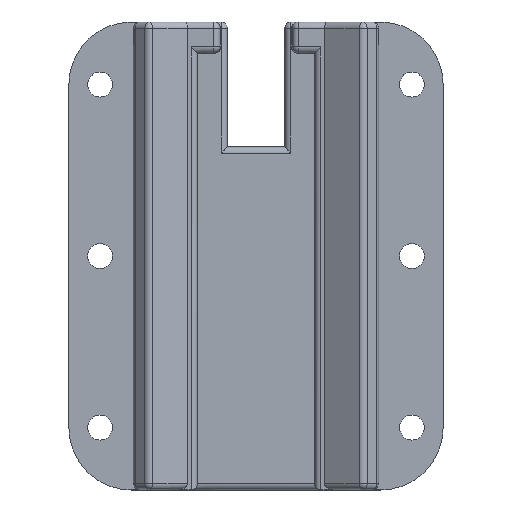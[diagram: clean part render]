
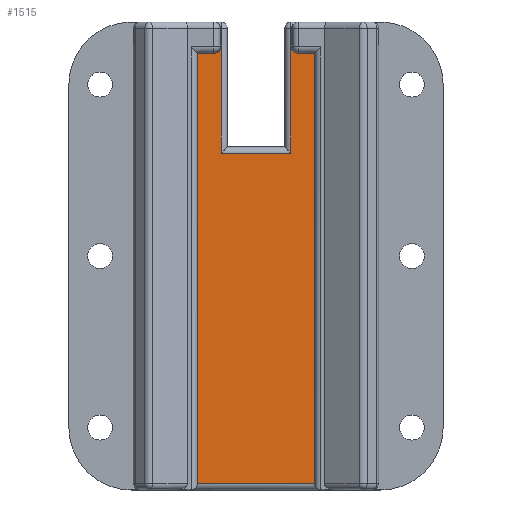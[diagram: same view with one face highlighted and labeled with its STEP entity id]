
A CAD part, top view. The second image highlights one B-rep face of the part: STEP entity #1515.
In plain terms, the highlighted planar face has unit normal (0, 0, 1).
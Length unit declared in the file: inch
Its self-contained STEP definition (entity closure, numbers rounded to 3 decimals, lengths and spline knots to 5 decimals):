
#122=PLANE('',#1645);
#165=FACE_OUTER_BOUND('',#263,.T.);
#263=EDGE_LOOP('',(#1091,#1092,#1093,#1094,#1095,#1096,#1097,#1098,#1099,
#1100,#1101,#1102,#1103,#1104));
#363=ELLIPSE('',#1630,0.05,0.05);
#364=ELLIPSE('',#1640,0.05,0.05);
#401=LINE('',#2374,#533);
#410=LINE('',#2403,#542);
#416=LINE('',#2424,#548);
#420=LINE('',#2440,#552);
#421=LINE('',#2442,#553);
#422=LINE('',#2445,#554);
#423=LINE('',#2447,#555);
#424=LINE('',#2449,#556);
#425=LINE('',#2451,#557);
#426=LINE('',#2453,#558);
#427=LINE('',#2455,#559);
#428=LINE('',#2456,#560);
#533=VECTOR('',#1843,0.3937);
#542=VECTOR('',#1872,0.3937);
#548=VECTOR('',#1898,39.37008);
#552=VECTOR('',#1918,39.37008);
#553=VECTOR('',#1921,39.37008);
#554=VECTOR('',#1924,39.37008);
#555=VECTOR('',#1925,39.37008);
#556=VECTOR('',#1926,39.37008);
#557=VECTOR('',#1927,39.37008);
#558=VECTOR('',#1928,39.37008);
#559=VECTOR('',#1929,39.37008);
#560=VECTOR('',#1930,39.37008);
#643=VERTEX_POINT('',#2322);
#665=VERTEX_POINT('',#2372);
#667=VERTEX_POINT('',#2380);
#675=VERTEX_POINT('',#2402);
#679=VERTEX_POINT('',#2413);
#680=VERTEX_POINT('',#2415);
#683=VERTEX_POINT('',#2432);
#684=VERTEX_POINT('',#2434);
#685=VERTEX_POINT('',#2444);
#686=VERTEX_POINT('',#2446);
#687=VERTEX_POINT('',#2448);
#688=VERTEX_POINT('',#2450);
#689=VERTEX_POINT('',#2452);
#690=VERTEX_POINT('',#2454);
#799=EDGE_CURVE('',#643,#665,#401,.T.);
#813=EDGE_CURVE('',#675,#667,#410,.T.);
#819=EDGE_CURVE('',#679,#680,#363,.F.);
#824=EDGE_CURVE('',#675,#679,#416,.T.);
#829=EDGE_CURVE('',#683,#684,#364,.F.);
#832=EDGE_CURVE('',#684,#665,#420,.T.);
#833=EDGE_CURVE('',#667,#643,#421,.T.);
#834=EDGE_CURVE('',#683,#685,#422,.T.);
#835=EDGE_CURVE('',#685,#686,#423,.T.);
#836=EDGE_CURVE('',#686,#687,#424,.T.);
#837=EDGE_CURVE('',#687,#688,#425,.T.);
#838=EDGE_CURVE('',#688,#689,#426,.T.);
#839=EDGE_CURVE('',#689,#690,#427,.T.);
#840=EDGE_CURVE('',#680,#690,#428,.T.);
#1091=ORIENTED_EDGE('',*,*,#799,.T.);
#1092=ORIENTED_EDGE('',*,*,#832,.F.);
#1093=ORIENTED_EDGE('',*,*,#829,.F.);
#1094=ORIENTED_EDGE('',*,*,#834,.T.);
#1095=ORIENTED_EDGE('',*,*,#835,.T.);
#1096=ORIENTED_EDGE('',*,*,#836,.T.);
#1097=ORIENTED_EDGE('',*,*,#837,.T.);
#1098=ORIENTED_EDGE('',*,*,#838,.T.);
#1099=ORIENTED_EDGE('',*,*,#839,.T.);
#1100=ORIENTED_EDGE('',*,*,#840,.F.);
#1101=ORIENTED_EDGE('',*,*,#819,.F.);
#1102=ORIENTED_EDGE('',*,*,#824,.F.);
#1103=ORIENTED_EDGE('',*,*,#813,.T.);
#1104=ORIENTED_EDGE('',*,*,#833,.T.);
#1515=ADVANCED_FACE('',(#165),#122,.F.);
#1630=AXIS2_PLACEMENT_3D('',#2416,#1884,#1885);
#1640=AXIS2_PLACEMENT_3D('',#2435,#1909,#1910);
#1645=AXIS2_PLACEMENT_3D('',#2443,#1922,#1923);
#1843=DIRECTION('',(0.,1.,0.));
#1872=DIRECTION('',(0.,-1.,0.));
#1884=DIRECTION('center_axis',(0.,0.,-1.));
#1885=DIRECTION('ref_axis',(1.,0.,0.));
#1898=DIRECTION('',(1.,0.,0.));
#1909=DIRECTION('center_axis',(0.,0.,-1.));
#1910=DIRECTION('ref_axis',(-1.,0.,0.));
#1918=DIRECTION('',(1.,0.,0.));
#1921=DIRECTION('',(1.,0.,0.));
#1922=DIRECTION('center_axis',(0.,0.,-1.));
#1923=DIRECTION('ref_axis',(0.,1.,0.));
#1924=DIRECTION('',(0.,1.,0.));
#1925=DIRECTION('',(-1.,0.,0.));
#1926=DIRECTION('',(0.,-1.,0.));
#1927=DIRECTION('',(-1.,0.,0.));
#1928=DIRECTION('',(0.,1.,0.));
#1929=DIRECTION('',(-1.,0.,0.));
#1930=DIRECTION('',(0.,1.,0.));
#2322=CARTESIAN_POINT('',(0.47,-4.1,0.4));
#2372=CARTESIAN_POINT('',(0.47,-0.65,0.4));
#2374=CARTESIAN_POINT('',(0.47,-4.49356,0.4));
#2380=CARTESIAN_POINT('',(-0.47,-4.1,0.4));
#2402=CARTESIAN_POINT('',(-0.47,-0.65,0.4));
#2403=CARTESIAN_POINT('',(-0.47,-4.49356,0.4));
#2413=CARTESIAN_POINT('',(-0.335,-0.65,0.4));
#2415=CARTESIAN_POINT('',(-0.285,-0.6,0.4));
#2416=CARTESIAN_POINT('Origin',(-0.335,-0.6,0.4));
#2424=CARTESIAN_POINT('',(-0.49,-0.65,0.4));
#2432=CARTESIAN_POINT('',(0.285,-0.6,0.4));
#2434=CARTESIAN_POINT('',(0.335,-0.65,0.4));
#2435=CARTESIAN_POINT('Origin',(0.335,-0.6,0.4));
#2440=CARTESIAN_POINT('',(0.49,-0.65,0.4));
#2442=CARTESIAN_POINT('',(0.55,-4.1,0.4));
#2443=CARTESIAN_POINT('Origin',(0.,-4.15,0.4));
#2444=CARTESIAN_POINT('',(0.285,-0.45,0.4));
#2445=CARTESIAN_POINT('',(0.285,-1.05376,0.4));
#2446=CARTESIAN_POINT('',(0.28,-0.45,0.4));
#2447=CARTESIAN_POINT('',(0.,-0.45,0.4));
#2448=CARTESIAN_POINT('',(0.28,-1.45,0.4));
#2449=CARTESIAN_POINT('',(0.28,-4.15,0.4));
#2450=CARTESIAN_POINT('',(-0.28,-1.45,0.4));
#2451=CARTESIAN_POINT('',(0.,-1.45,0.4));
#2452=CARTESIAN_POINT('',(-0.28,-0.45,0.4));
#2453=CARTESIAN_POINT('',(-0.28,-4.15,0.4));
#2454=CARTESIAN_POINT('',(-0.285,-0.45,0.4));
#2455=CARTESIAN_POINT('',(0.,-0.45,0.4));
#2456=CARTESIAN_POINT('',(-0.285,-1.05376,0.4));
